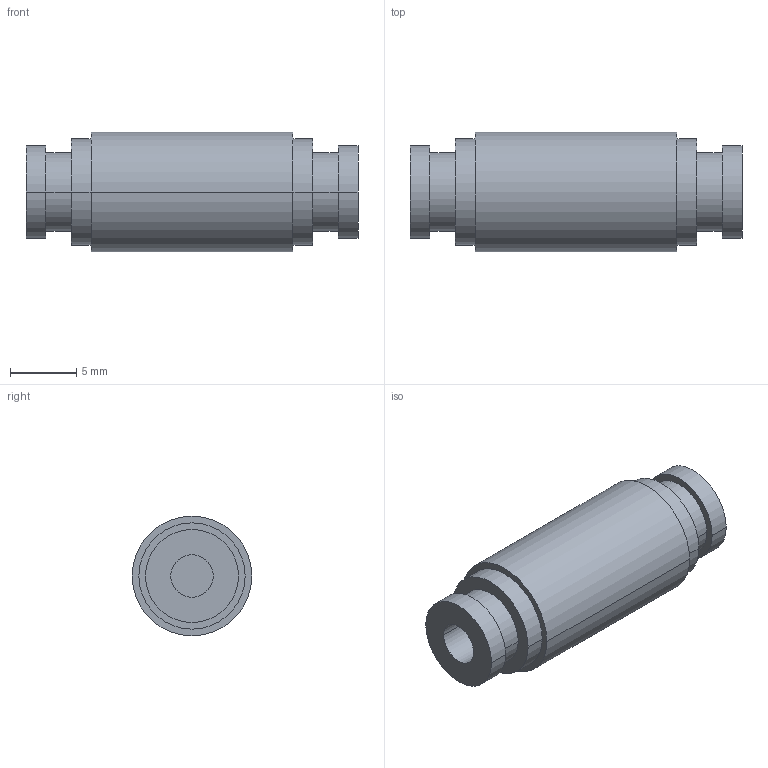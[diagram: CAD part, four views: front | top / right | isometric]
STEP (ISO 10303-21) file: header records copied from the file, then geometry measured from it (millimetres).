
FILE_DESCRIPTION( ( '' ), '1' );
FILE_NAME( 'G:/SMC狟婥/KQ2H23-00A.stp', '2023-03-07T02:54:43', ( '' ), ( '' ), ' ', ' ', ' ' );
FILE_SCHEMA( ( 'CONFIG_CONTROL_DESIGN' ) );
Length unit declared in the file: millimetre
Products named in the file (1): 1
Bounding box: 25 x 9 x 9 mm (x, y, z)
Volume: 1144.1 mm3; surface area: 1054.7 mm2
Topology: 1 solids, 1 shells, 28 faces, 54 edges, 36 vertices
Faces by surface type: cylinder 18, plane 10
Entity records: 778 total; most frequent: DIRECTION 148, CARTESIAN_POINT 119, ORIENTED_EDGE 108, AXIS2_PLACEMENT_3D 65, EDGE_CURVE 54, EDGE_LOOP 36, VERTEX_POINT 36, CIRCLE 36
